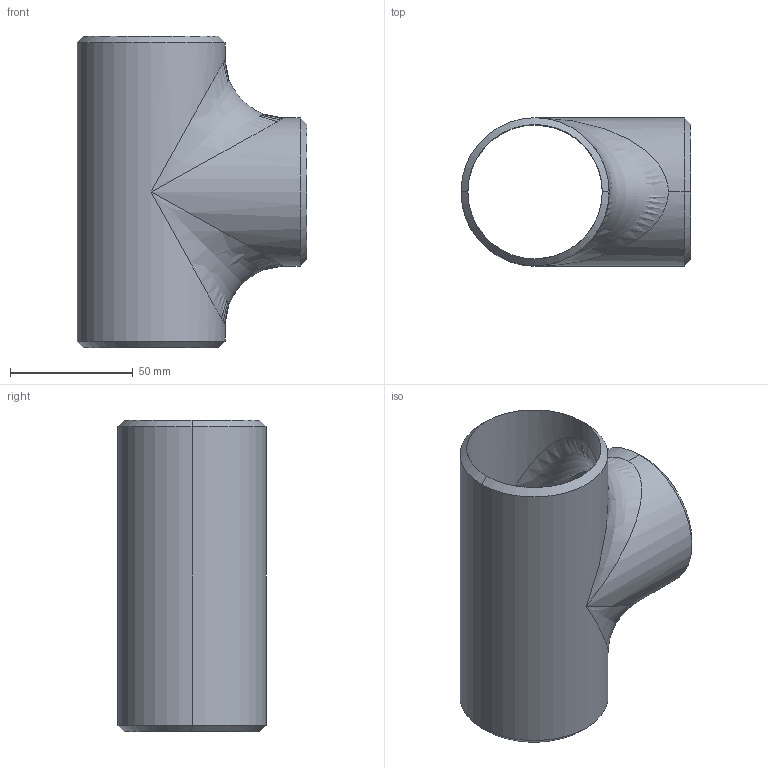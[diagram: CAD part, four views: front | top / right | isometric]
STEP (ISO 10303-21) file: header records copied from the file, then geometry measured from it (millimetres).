
FILE_DESCRIPTION (( 'STEP AP203' ), '1' );
FILE_NAME ('3D_R266_2x10S_173445147.STEP', '2024-08-23T10:57:57', ( '' ), ( '' ), 'SwSTEP 2.0', 'SolidWorks 2024', '' );
FILE_SCHEMA (( 'CONFIG_CONTROL_DESIGN' ));
Length unit declared in the file: millimetre
Products named in the file (1): 3D_R266_2x10S_173445147
Bounding box: 93.65 x 60.3 x 127 mm (x, y, z)
Volume: 73865.2 mm3; surface area: 55390.1 mm2
Topology: 1 solids, 1 shells, 21 faces, 58 edges, 30 vertices
Faces by surface type: cylinder 8, cone 6, bspline 4, plane 3
Entity records: 1315 total; most frequent: CARTESIAN_POINT 794, ORIENTED_EDGE 100, DIRECTION 88, EDGE_CURVE 50, AXIS2_PLACEMENT_3D 36, VERTEX_POINT 30, EDGE_LOOP 24, ADVANCED_FACE 21
